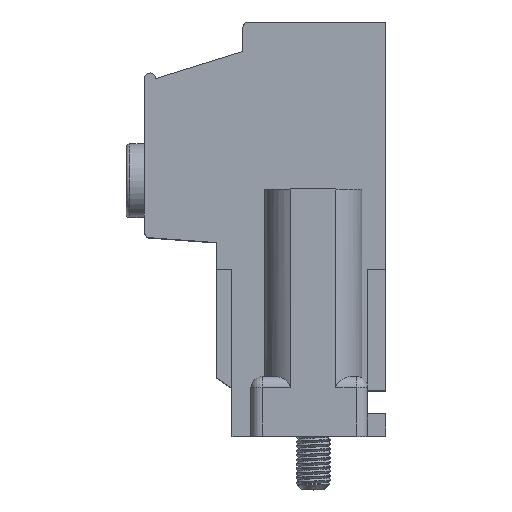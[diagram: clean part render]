
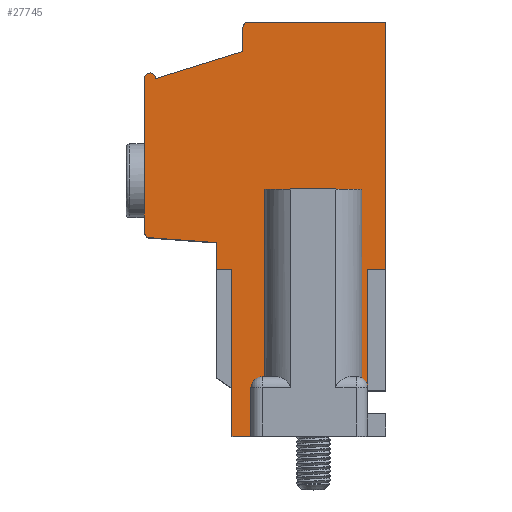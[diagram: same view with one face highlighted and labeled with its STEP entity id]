
A CAD part, top view. The second image highlights one B-rep face of the part: STEP entity #27745.
In plain terms, the highlighted planar face has unit normal (0, 0, 1).
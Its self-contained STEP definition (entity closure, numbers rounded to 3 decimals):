
#2362=DIRECTION('',(0.,-1.,0.));
#2363=VECTOR('',#2362,14.75);
#2364=CARTESIAN_POINT('',(9.33,19.45,-14.231));
#2365=LINE('',#2364,#2363);
#2390=DIRECTION('',(0.,-1.,0.));
#2391=VECTOR('',#2390,2.333);
#2392=CARTESIAN_POINT('',(8.,21.783,-14.231));
#2393=LINE('',#2392,#2391);
#2986=DIRECTION('',(0.,1.,0.));
#2987=VECTOR('',#2986,10.5);
#2988=CARTESIAN_POINT('',(21.3,8.95,-14.231));
#2989=LINE('',#2988,#2987);
#4332=CARTESIAN_POINT('',(20.3,8.95,-14.231));
#4333=DIRECTION('',(0.,0.,1.));
#4334=DIRECTION('',(1.,0.,0.));
#4335=AXIS2_PLACEMENT_3D('',#4332,#4333,#4334);
#4337=CARTESIAN_POINT('',(12.,8.95,-14.231));
#4338=DIRECTION('',(0.,0.,1.));
#4339=DIRECTION('',(0.,1.,0.));
#4340=AXIS2_PLACEMENT_3D('',#4337,#4338,#4339);
#4342=DIRECTION('',(-1.,0.,0.));
#4343=VECTOR('',#4342,1.67);
#4344=CARTESIAN_POINT('',(11.,4.7,-14.231));
#4345=LINE('',#4344,#4343);
#4346=DIRECTION('',(-0.997,0.073,0.));
#4347=VECTOR('',#4346,5.952);
#4348=CARTESIAN_POINT('',(8.,21.783,-14.231));
#4349=LINE('',#4348,#4347);
#4350=CARTESIAN_POINT('',(2.1,22.715,-14.231));
#4351=DIRECTION('',(0.,0.,-1.));
#4352=DIRECTION('',(-0.073,-0.997,0.));
#4353=AXIS2_PLACEMENT_3D('',#4350,#4351,#4352);
#4355=DIRECTION('',(0.,1.,0.));
#4356=VECTOR('',#4355,13.535);
#4357=CARTESIAN_POINT('',(1.6,22.715,-14.231));
#4358=LINE('',#4357,#4356);
#4359=CARTESIAN_POINT('',(2.1,36.25,-14.231));
#4360=DIRECTION('',(0.,0.,-1.));
#4361=DIRECTION('',(-1.,0.,0.));
#4362=AXIS2_PLACEMENT_3D('',#4359,#4360,#4361);
#4364=DIRECTION('',(0.955,0.298,0.));
#4365=VECTOR('',#4364,8.065);
#4366=CARTESIAN_POINT('',(2.6,36.25,-14.231));
#4367=LINE('',#4366,#4365);
#4368=CARTESIAN_POINT('',(10.8,40.75,-14.231));
#4369=DIRECTION('',(0.,0.,-1.));
#4370=DIRECTION('',(-1.,0.,0.));
#4371=AXIS2_PLACEMENT_3D('',#4368,#4369,#4370);
#4373=DIRECTION('',(1.,0.,0.));
#4374=VECTOR('',#4373,12.1);
#4375=CARTESIAN_POINT('',(10.8,41.25,-14.231));
#4376=LINE('',#4375,#4374);
#4377=DIRECTION('',(0.,-1.,0.));
#4378=VECTOR('',#4377,21.8);
#4379=CARTESIAN_POINT('',(22.9,41.25,-14.231));
#4380=LINE('',#4379,#4378);
#4465=DIRECTION('',(0.,1.,0.));
#4466=VECTOR('',#4465,4.25);
#4467=CARTESIAN_POINT('',(11.,4.7,-14.231));
#4468=LINE('',#4467,#4466);
#4477=DIRECTION('',(1.,0.,0.));
#4478=VECTOR('',#4477,0.2);
#4479=CARTESIAN_POINT('',(12.,9.95,-14.231));
#4480=LINE('',#4479,#4478);
#4490=DIRECTION('',(0.,1.,0.));
#4491=VECTOR('',#4490,16.55);
#4492=CARTESIAN_POINT('',(12.2,9.95,-14.231));
#4493=LINE('',#4492,#4491);
#4503=DIRECTION('',(1.,0.,0.));
#4504=VECTOR('',#4503,8.6);
#4505=CARTESIAN_POINT('',(12.2,26.5,-14.231));
#4506=LINE('',#4505,#4504);
#4551=DIRECTION('',(0.,-1.,0.));
#4552=VECTOR('',#4551,16.684);
#4553=CARTESIAN_POINT('',(20.8,26.5,-14.231));
#4554=LINE('',#4553,#4552);
#5135=DIRECTION('',(1.,0.,0.));
#5136=VECTOR('',#5135,1.33);
#5137=CARTESIAN_POINT('',(8.,19.45,-14.231));
#5138=LINE('',#5137,#5136);
#5221=DIRECTION('',(0.,-1.,0.));
#5222=VECTOR('',#5221,2.1);
#5223=CARTESIAN_POINT('',(10.3,40.75,-14.231));
#5224=LINE('',#5223,#5222);
#5917=DIRECTION('',(1.,0.,0.));
#5918=VECTOR('',#5917,1.6);
#5919=CARTESIAN_POINT('',(21.3,19.45,-14.231));
#5920=LINE('',#5919,#5918);
#13766=CARTESIAN_POINT('',(12.2,26.5,-14.231));
#13767=VERTEX_POINT('',#13766);
#13768=CARTESIAN_POINT('',(20.8,26.5,-14.231));
#13769=VERTEX_POINT('',#13768);
#13796=CARTESIAN_POINT('',(9.33,4.7,-14.231));
#13798=VERTEX_POINT('',#13796);
#13799=CARTESIAN_POINT('',(11.,4.7,-14.231));
#13800=VERTEX_POINT('',#13799);
#14003=CARTESIAN_POINT('',(9.33,19.45,-14.231));
#14004=VERTEX_POINT('',#14003);
#14026=CARTESIAN_POINT('',(8.,21.783,-14.231));
#14028=VERTEX_POINT('',#14026);
#14029=CARTESIAN_POINT('',(8.,19.45,-14.231));
#14030=VERTEX_POINT('',#14029);
#14053=CARTESIAN_POINT('',(2.064,22.216,
-14.231));
#14055=VERTEX_POINT('',#14053);
#14082=CARTESIAN_POINT('',(1.6,22.715,-14.231));
#14084=VERTEX_POINT('',#14082);
#14085=CARTESIAN_POINT('',(1.6,36.25,-14.231));
#14087=VERTEX_POINT('',#14085);
#14129=CARTESIAN_POINT('',(2.6,36.25,-14.231));
#14130=VERTEX_POINT('',#14129);
#14177=CARTESIAN_POINT('',(22.9,41.25,-14.231));
#14179=VERTEX_POINT('',#14177);
#14181=CARTESIAN_POINT('',(10.8,41.25,-14.231));
#14182=VERTEX_POINT('',#14181);
#14199=CARTESIAN_POINT('',(22.9,19.45,-14.231));
#14200=VERTEX_POINT('',#14199);
#14275=CARTESIAN_POINT('',(21.3,8.95,-14.231));
#14276=VERTEX_POINT('',#14275);
#14277=CARTESIAN_POINT('',(21.3,19.45,-14.231));
#14278=VERTEX_POINT('',#14277);
#14343=CARTESIAN_POINT('',(10.3,40.75,-14.231));
#14344=VERTEX_POINT('',#14343);
#14345=CARTESIAN_POINT('',(20.8,9.816,-14.231));
#14346=VERTEX_POINT('',#14345);
#14347=CARTESIAN_POINT('',(12.2,9.95,-14.231));
#14348=VERTEX_POINT('',#14347);
#14349=CARTESIAN_POINT('',(12.,9.95,-14.231));
#14350=VERTEX_POINT('',#14349);
#14351=CARTESIAN_POINT('',(11.,8.95,-14.231));
#14352=VERTEX_POINT('',#14351);
#14353=CARTESIAN_POINT('',(10.3,38.65,-14.231));
#14354=VERTEX_POINT('',#14353);
#27704=CARTESIAN_POINT('',(12.25,22.975,-14.231));
#27705=DIRECTION('',(0.,0.,1.));
#27706=DIRECTION('',(1.,0.,0.));
#27707=AXIS2_PLACEMENT_3D('',#27704,#27705,#27706);
#27708=PLANE('',#27707);
#27709=ORIENTED_EDGE('',*,*,#25951,.F.);
#27711=ORIENTED_EDGE('',*,*,#27710,.T.);
#27713=ORIENTED_EDGE('',*,*,#27712,.F.);
#27715=ORIENTED_EDGE('',*,*,#27714,.F.);
#27717=ORIENTED_EDGE('',*,*,#27716,.F.);
#27719=ORIENTED_EDGE('',*,*,#27718,.F.);
#27721=ORIENTED_EDGE('',*,*,#27720,.T.);
#27723=ORIENTED_EDGE('',*,*,#27722,.F.);
#27724=ORIENTED_EDGE('',*,*,#24641,.T.);
#27725=ORIENTED_EDGE('',*,*,#24873,.F.);
#27727=ORIENTED_EDGE('',*,*,#27726,.F.);
#27728=ORIENTED_EDGE('',*,*,#24919,.F.);
#27729=ORIENTED_EDGE('',*,*,#24958,.T.);
#27730=ORIENTED_EDGE('',*,*,#25003,.T.);
#27731=ORIENTED_EDGE('',*,*,#25018,.T.);
#27732=ORIENTED_EDGE('',*,*,#25083,.T.);
#27734=ORIENTED_EDGE('',*,*,#27733,.T.);
#27736=ORIENTED_EDGE('',*,*,#27735,.F.);
#27738=ORIENTED_EDGE('',*,*,#27737,.T.);
#27739=ORIENTED_EDGE('',*,*,#27689,.T.);
#27740=ORIENTED_EDGE('',*,*,#25779,.T.);
#27742=ORIENTED_EDGE('',*,*,#27741,.F.);
#27743=EDGE_LOOP('',(#27709,#27711,#27713,#27715,#27717,#27719,#27721,#27723,
#27724,#27725,#27727,#27728,#27729,#27730,#27731,#27732,#27734,#27736,#27738,
#27739,#27740,#27742));
#27744=FACE_OUTER_BOUND('',#27743,.F.);
#27745=ADVANCED_FACE('',(#27744),#27708,.T.);
#4336=CIRCLE('',#4335,1.);
#4341=CIRCLE('',#4340,1.);
#4354=CIRCLE('',#4353,0.5);
#4363=CIRCLE('',#4362,0.5);
#4372=CIRCLE('',#4371,0.5);
#24641=EDGE_CURVE('',#13800,#13798,#4345,.T.);
#24873=EDGE_CURVE('',#14004,#13798,#2365,.T.);
#24919=EDGE_CURVE('',#14028,#14030,#2393,.T.);
#24958=EDGE_CURVE('',#14028,#14055,#4349,.T.);
#25003=EDGE_CURVE('',#14055,#14084,#4354,.T.);
#25018=EDGE_CURVE('',#14084,#14087,#4358,.T.);
#25083=EDGE_CURVE('',#14087,#14130,#4363,.T.);
#25779=EDGE_CURVE('',#14179,#14200,#4380,.T.);
#25951=EDGE_CURVE('',#14276,#14278,#2989,.T.);
#27689=EDGE_CURVE('',#14182,#14179,#4376,.T.);
#27710=EDGE_CURVE('',#14276,#14346,#4336,.T.);
#27712=EDGE_CURVE('',#13769,#14346,#4554,.T.);
#27714=EDGE_CURVE('',#13767,#13769,#4506,.T.);
#27716=EDGE_CURVE('',#14348,#13767,#4493,.T.);
#27718=EDGE_CURVE('',#14350,#14348,#4480,.T.);
#27720=EDGE_CURVE('',#14350,#14352,#4341,.T.);
#27722=EDGE_CURVE('',#13800,#14352,#4468,.T.);
#27726=EDGE_CURVE('',#14030,#14004,#5138,.T.);
#27733=EDGE_CURVE('',#14130,#14354,#4367,.T.);
#27735=EDGE_CURVE('',#14344,#14354,#5224,.T.);
#27737=EDGE_CURVE('',#14344,#14182,#4372,.T.);
#27741=EDGE_CURVE('',#14278,#14200,#5920,.T.);
